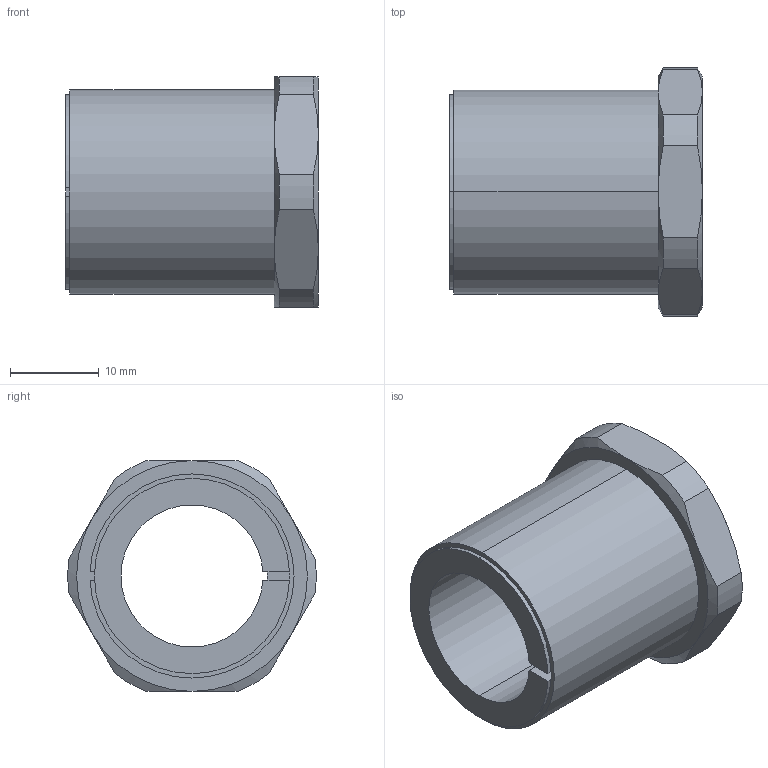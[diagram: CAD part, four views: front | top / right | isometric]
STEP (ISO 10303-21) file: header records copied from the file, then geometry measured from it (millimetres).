
FILE_DESCRIPTION (( 'STEP AP203' ), '1' );
FILE_NAME ('KBS 57 - 16 x 23.STEP', '2015-07-05T18:34:42', ( '' ), ( '' ), 'SwSTEP 2.0', 'SolidWorks 2010', '' );
FILE_SCHEMA (( 'CONFIG_CONTROL_DESIGN' ));
Length unit declared in the file: millimetre
Products named in the file (1): KBS 57 - 16 x 23
Bounding box: 28.5 x 27.97 x 26 mm (x, y, z)
Volume: 6755.7 mm3; surface area: 4460.4 mm2
Topology: 1 solids, 1 shells, 47 faces, 118 edges, 74 vertices
Faces by surface type: cylinder 16, plane 16, cone 15
Entity records: 1557 total; most frequent: CARTESIAN_POINT 356, DIRECTION 240, ORIENTED_EDGE 236, EDGE_CURVE 118, AXIS2_PLACEMENT_3D 100, VERTEX_POINT 74, CIRCLE 52, EDGE_LOOP 50
